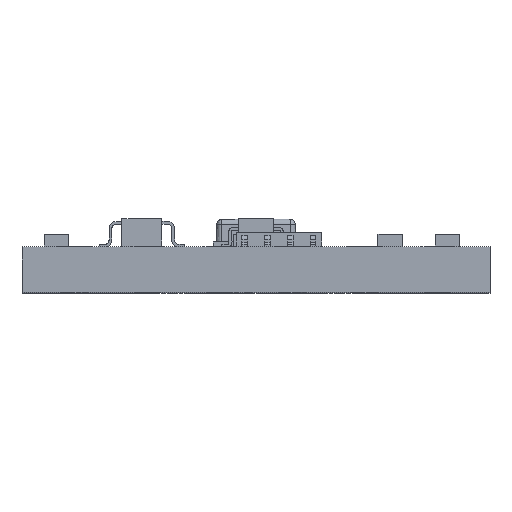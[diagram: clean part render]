
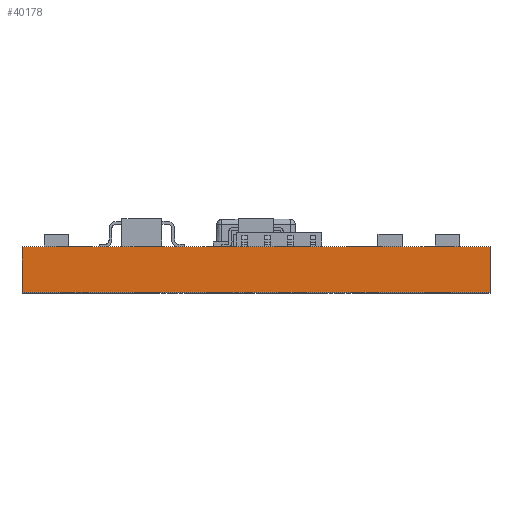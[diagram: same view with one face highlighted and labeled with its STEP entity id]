
A CAD part, top view. The second image highlights one B-rep face of the part: STEP entity #40178.
In plain terms, the highlighted planar face has unit normal (0, 0, 1).
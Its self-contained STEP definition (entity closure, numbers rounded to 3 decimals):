
#1083 = CARTESIAN_POINT ( 'NONE',  ( -8.2, 0.8, 6.85 ) ) ;
#1543 = DIRECTION ( 'NONE',  ( 0., 0., -1. ) ) ;
#2839 = DIRECTION ( 'NONE',  ( 1., 0., 0. ) ) ;
#4241 = VECTOR ( 'NONE', #10953, 1000. ) ;
#5258 = ORIENTED_EDGE ( 'NONE', *, *, #14995, .F. ) ;
#6216 = ORIENTED_EDGE ( 'NONE', *, *, #51525, .T. ) ;
#8289 = LINE ( 'NONE', #54472, #49230 ) ;
#10713 = EDGE_CURVE ( 'NONE', #31502, #42920, #58008, .T. ) ;
#10953 = DIRECTION ( 'NONE',  ( 0., -1., 0. ) ) ;
#12936 = VECTOR ( 'NONE', #57658, 1000. ) ;
#13498 = CARTESIAN_POINT ( 'NONE',  ( -8.2, 0.8, 6.85 ) ) ;
#14995 = EDGE_CURVE ( 'NONE', #42920, #30463, #55459, .T. ) ;
#19243 = VERTEX_POINT ( 'NONE', #67590 ) ;
#21720 = LINE ( 'NONE', #42234, #4241 ) ;
#25776 = CARTESIAN_POINT ( 'NONE',  ( 8.2, 0.8, 6.85 ) ) ;
#27163 = ORIENTED_EDGE ( 'NONE', *, *, #10713, .F. ) ;
#27907 = DIRECTION ( 'NONE',  ( 1., 0., 0. ) ) ;
#30463 = VERTEX_POINT ( 'NONE', #55246 ) ;
#31319 = VECTOR ( 'NONE', #2839, 1000. ) ;
#31502 = VERTEX_POINT ( 'NONE', #60534 ) ;
#32507 = PLANE ( 'NONE',  #58624 ) ;
#34597 = ORIENTED_EDGE ( 'NONE', *, *, #43632, .T. ) ;
#40178 = ADVANCED_FACE ( 'NONE', ( #67632 ), #32507, .F. ) ;
#42234 = CARTESIAN_POINT ( 'NONE',  ( -8.2, 0.8, 6.85 ) ) ;
#42920 = VERTEX_POINT ( 'NONE', #25776 ) ;
#43632 = EDGE_CURVE ( 'NONE', #31502, #19243, #21720, .T. ) ;
#45380 = EDGE_LOOP ( 'NONE', ( #6216, #5258, #27163, #34597 ) ) ;
#49230 = VECTOR ( 'NONE', #27907, 1000. ) ;
#51525 = EDGE_CURVE ( 'NONE', #19243, #30463, #8289, .T. ) ;
#54472 = CARTESIAN_POINT ( 'NONE',  ( -8.2, -0.8, 6.85 ) ) ;
#54646 = DIRECTION ( 'NONE',  ( -1., 0., 0. ) ) ;
#55246 = CARTESIAN_POINT ( 'NONE',  ( 8.2, -0.8, 6.85 ) ) ;
#55459 = LINE ( 'NONE', #68142, #12936 ) ;
#57658 = DIRECTION ( 'NONE',  ( 0., -1., 0. ) ) ;
#58008 = LINE ( 'NONE', #13498, #31319 ) ;
#58624 = AXIS2_PLACEMENT_3D ( 'NONE', #1083, #1543, #54646 ) ;
#60534 = CARTESIAN_POINT ( 'NONE',  ( -8.2, 0.8, 6.85 ) ) ;
#67590 = CARTESIAN_POINT ( 'NONE',  ( -8.2, -0.8, 6.85 ) ) ;
#67632 = FACE_OUTER_BOUND ( 'NONE', #45380, .T. ) ;
#68142 = CARTESIAN_POINT ( 'NONE',  ( 8.2, 0.8, 6.85 ) ) ;
